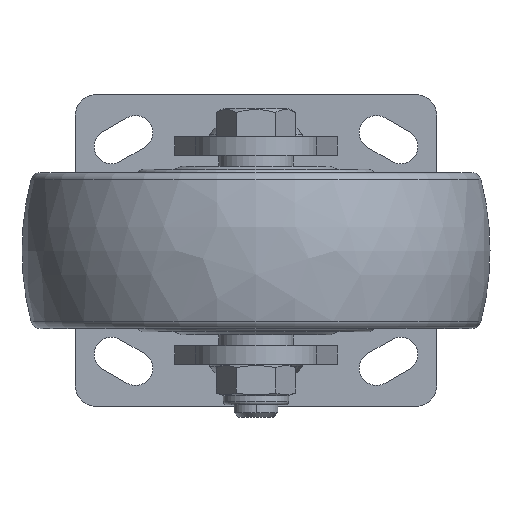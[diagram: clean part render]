
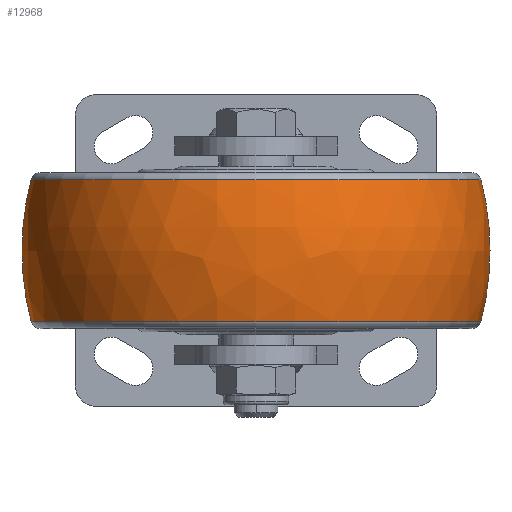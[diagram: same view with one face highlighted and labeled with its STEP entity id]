
A CAD part, front view. The second image highlights one B-rep face of the part: STEP entity #12968.
In plain terms, the highlighted free-form (B-spline) face has degree [3, 3] with [7, 4] control points.
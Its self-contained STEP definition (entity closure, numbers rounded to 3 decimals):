
#8692=CARTESIAN_POINT('',(0.,0.,-22.759));
#8693=DIRECTION('',(0.,0.,-1.));
#8694=DIRECTION('',(1.,0.,0.));
#8695=AXIS2_PLACEMENT_3D('',#8692,#8693,#8694);
#8697=CARTESIAN_POINT('',(14.999,0.,
0.));
#8698=DIRECTION('',(0.,-1.,0.));
#8699=DIRECTION('',(-0.967,0.,0.253));
#8700=AXIS2_PLACEMENT_3D('',#8697,#8698,#8699);
#8702=CARTESIAN_POINT('',(0.,0.,22.759));
#8703=DIRECTION('',(0.,0.,-1.));
#8704=DIRECTION('',(1.,0.,0.));
#8705=AXIS2_PLACEMENT_3D('',#8702,#8703,#8704);
#8707=CARTESIAN_POINT('',(14.999,0.,
0.));
#8708=DIRECTION('',(0.,-1.,0.));
#8709=DIRECTION('',(-1.,0.,0.));
#8710=AXIS2_PLACEMENT_3D('',#8707,#8708,#8709);
#8712=CARTESIAN_POINT('',(-14.999,0.,
0.));
#8713=DIRECTION('',(0.,1.,0.));
#8714=DIRECTION('',(1.,0.,0.));
#8715=AXIS2_PLACEMENT_3D('',#8712,#8713,#8714);
#8717=CARTESIAN_POINT('',(-14.999,0.,
0.));
#8718=DIRECTION('',(0.,1.,0.));
#8719=DIRECTION('',(0.967,0.,0.253));
#8720=AXIS2_PLACEMENT_3D('',#8717,#8718,#8719);
#9415=CARTESIAN_POINT('',(72.076,0.,
-22.759));
#9417=VERTEX_POINT('',#9415);
#9621=CARTESIAN_POINT('',(72.076,0.,
22.759));
#9622=CARTESIAN_POINT('',(-72.076,0.,
22.759));
#9623=VERTEX_POINT('',#9621);
#9624=VERTEX_POINT('',#9622);
#9669=CARTESIAN_POINT('',(-75.001,0.,
0.));
#9670=CARTESIAN_POINT('',(-72.076,0.,
-22.759));
#9671=VERTEX_POINT('',#9669);
#9672=VERTEX_POINT('',#9670);
#9808=CARTESIAN_POINT('',(75.001,0.,
0.));
#9809=VERTEX_POINT('',#9808);
#12926=CARTESIAN_POINT('',(-71.697,4.511,
-23.648));
#12927=CARTESIAN_POINT('',(-75.93,4.777,
-8.072));
#12928=CARTESIAN_POINT('',(-75.93,4.777,
8.072));
#12929=CARTESIAN_POINT('',(-71.697,4.511,
23.648));
#12930=CARTESIAN_POINT('',(-74.473,-39.612,
-23.648));
#12931=CARTESIAN_POINT('',(-78.87,-41.95,
-8.072));
#12932=CARTESIAN_POINT('',(-78.87,-41.95,
8.072));
#12933=CARTESIAN_POINT('',(-74.473,-39.612,
23.648));
#12934=CARTESIAN_POINT('',(-44.21,-71.839,
-23.648));
#12935=CARTESIAN_POINT('',(-46.82,-76.081,
-8.072));
#12936=CARTESIAN_POINT('',(-46.82,-76.081,
8.072));
#12937=CARTESIAN_POINT('',(-44.21,-71.839,
23.648));
#12938=CARTESIAN_POINT('',(0.,-71.839,
-23.648));
#12939=CARTESIAN_POINT('',(0.,-76.081,
-8.072));
#12940=CARTESIAN_POINT('',(0.,-76.081,
8.072));
#12941=CARTESIAN_POINT('',(0.,-71.839,
23.648));
#12942=CARTESIAN_POINT('',(44.21,-71.839,
-23.648));
#12943=CARTESIAN_POINT('',(46.82,-76.081,
-8.072));
#12944=CARTESIAN_POINT('',(46.82,-76.081,
8.072));
#12945=CARTESIAN_POINT('',(44.21,-71.839,
23.648));
#12946=CARTESIAN_POINT('',(74.473,-39.612,
-23.648));
#12947=CARTESIAN_POINT('',(78.87,-41.95,
-8.072));
#12948=CARTESIAN_POINT('',(78.87,-41.95,
8.072));
#12949=CARTESIAN_POINT('',(74.473,-39.612,
23.648));
#12950=CARTESIAN_POINT('',(71.697,4.511,
-23.648));
#12951=CARTESIAN_POINT('',(75.93,4.777,
-8.072));
#12952=CARTESIAN_POINT('',(75.93,4.777,8.072));
#12953=CARTESIAN_POINT('',(71.697,4.511,23.648));
#12954=(BOUNDED_SURFACE()B_SPLINE_SURFACE(3,3,((#12926,#12927,#12928,#12929),(
#12930,#12931,#12932,#12933),(#12934,#12935,#12936,#12937),(#12938,#12939,
#12940,#12941),(#12942,#12943,#12944,#12945),(#12946,#12947,#12948,#12949),(
#12950,#12951,#12952,#12953)),.UNSPECIFIED.,.F.,.F.,.F.)B_SPLINE_SURFACE_WITH_KNOTS((4,3,4),(4,4),(0.,1.,2.),(0.,1.),.UNSPECIFIED.)GEOMETRIC_REPRESENTATION_ITEM()RATIONAL_B_SPLINE_SURFACE(((1.208,1.18,
1.18,1.208),(0.954,0.932,
0.932,0.954),(0.954,0.932,
0.932,0.954),(1.208,1.18,
1.18,1.208),(0.954,0.932,
0.932,0.954),(0.954,0.932,
0.932,0.954),(1.208,1.18,
1.18,1.208)))REPRESENTATION_ITEM('')SURFACE());
#12956=ORIENTED_EDGE('',*,*,#12955,.F.);
#12958=ORIENTED_EDGE('',*,*,#12957,.F.);
#12960=ORIENTED_EDGE('',*,*,#12959,.T.);
#12962=ORIENTED_EDGE('',*,*,#12961,.T.);
#12963=ORIENTED_EDGE('',*,*,#12919,.T.);
#12965=ORIENTED_EDGE('',*,*,#12964,.F.);
#12966=EDGE_LOOP('',(#12956,#12958,#12960,#12962,#12963,#12965));
#12967=FACE_OUTER_BOUND('',#12966,.F.);
#8696=CIRCLE('',#8695,72.076);
#8701=CIRCLE('',#8700,90.);
#8706=CIRCLE('',#8705,72.076);
#8711=CIRCLE('',#8710,90.);
#8716=CIRCLE('',#8715,90.);
#8721=CIRCLE('',#8720,90.);
#12919=EDGE_CURVE('',#9417,#9672,#8696,.T.);
#12955=EDGE_CURVE('',#9624,#9671,#8701,.T.);
#12957=EDGE_CURVE('',#9623,#9624,#8706,.T.);
#12959=EDGE_CURVE('',#9623,#9809,#8721,.T.);
#12961=EDGE_CURVE('',#9809,#9417,#8716,.T.);
#12964=EDGE_CURVE('',#9671,#9672,#8711,.T.);
#12968=ADVANCED_FACE('',(#12967),#12954,.T.);
